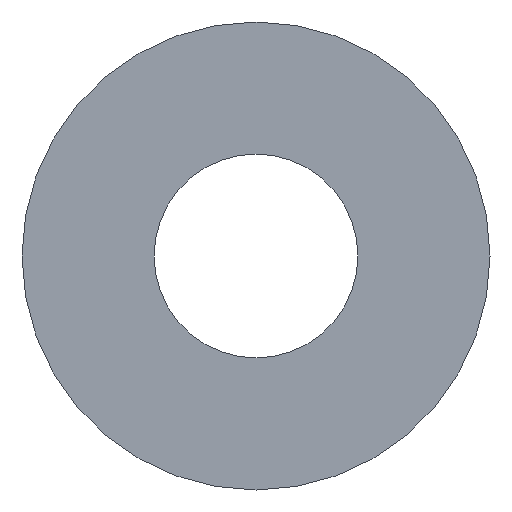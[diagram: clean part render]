
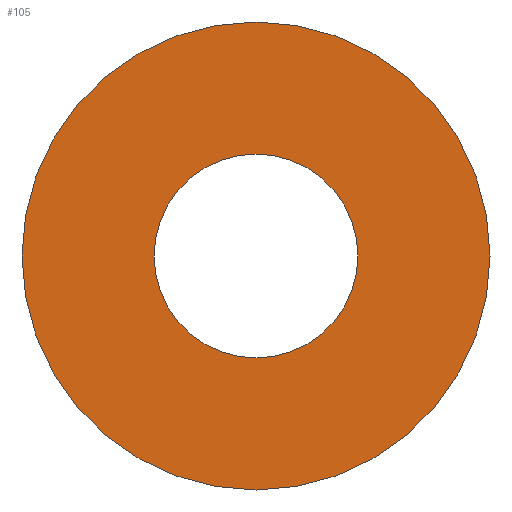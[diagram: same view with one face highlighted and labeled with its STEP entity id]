
A CAD part, left-side view. The second image highlights one B-rep face of the part: STEP entity #105.
In plain terms, the highlighted planar face has unit normal (-1, 0, 0).
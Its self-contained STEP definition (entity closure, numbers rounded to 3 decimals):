
#22 = VERTEX_POINT('',#23);
#23 = CARTESIAN_POINT('',(6.5,-7.,0.));
#32 = CYLINDRICAL_SURFACE('',#33,7.);
#33 = AXIS2_PLACEMENT_3D('',#34,#35,#36);
#34 = CARTESIAN_POINT('',(6.5,0.,0.));
#35 = DIRECTION('',(-1.,-0.,-0.));
#36 = DIRECTION('',(0.,-1.,0.));
#79 = EDGE_CURVE('',#22,#22,#80,.T.);
#80 = SURFACE_CURVE('',#81,(#86,#93),.PCURVE_S1.);
#81 = CIRCLE('',#82,7.);
#82 = AXIS2_PLACEMENT_3D('',#83,#84,#85);
#83 = CARTESIAN_POINT('',(6.5,0.,0.));
#84 = DIRECTION('',(1.,0.,0.));
#85 = DIRECTION('',(0.,-1.,0.));
#86 = PCURVE('',#32,#87);
#87 = DEFINITIONAL_REPRESENTATION('',(#88),#92);
#88 = LINE('',#89,#90);
#89 = CARTESIAN_POINT('',(-0.,0.));
#90 = VECTOR('',#91,1.);
#91 = DIRECTION('',(-1.,0.));
#92 = ( GEOMETRIC_REPRESENTATION_CONTEXT(2) 
PARAMETRIC_REPRESENTATION_CONTEXT() REPRESENTATION_CONTEXT('2D SPACE',''
  ) );
#93 = PCURVE('',#94,#99);
#94 = PLANE('',#95);
#95 = AXIS2_PLACEMENT_3D('',#96,#97,#98);
#96 = CARTESIAN_POINT('',(6.5,0.,0.));
#97 = DIRECTION('',(1.,0.,0.));
#98 = DIRECTION('',(-0.,0.,1.));
#99 = DEFINITIONAL_REPRESENTATION('',(#100),#104);
#100 = CIRCLE('',#101,7.);
#101 = AXIS2_PLACEMENT_2D('',#102,#103);
#102 = CARTESIAN_POINT('',(0.,0.));
#103 = DIRECTION('',(0.,1.));
#104 = ( GEOMETRIC_REPRESENTATION_CONTEXT(2) 
PARAMETRIC_REPRESENTATION_CONTEXT() REPRESENTATION_CONTEXT('2D SPACE',''
  ) );
#105 = ADVANCED_FACE('',(#106,#109),#94,.F.);
#106 = FACE_BOUND('',#107,.F.);
#107 = EDGE_LOOP('',(#108));
#108 = ORIENTED_EDGE('',*,*,#79,.T.);
#109 = FACE_BOUND('',#110,.F.);
#110 = EDGE_LOOP('',(#111));
#111 = ORIENTED_EDGE('',*,*,#112,.T.);
#112 = EDGE_CURVE('',#113,#113,#115,.T.);
#113 = VERTEX_POINT('',#114);
#114 = CARTESIAN_POINT('',(6.5,-3.05,0.));
#115 = SURFACE_CURVE('',#116,(#121,#132),.PCURVE_S1.);
#116 = CIRCLE('',#117,3.05);
#117 = AXIS2_PLACEMENT_3D('',#118,#119,#120);
#118 = CARTESIAN_POINT('',(6.5,0.,0.));
#119 = DIRECTION('',(-1.,-0.,0.));
#120 = DIRECTION('',(0.,-1.,0.));
#121 = PCURVE('',#94,#122);
#122 = DEFINITIONAL_REPRESENTATION('',(#123),#131);
#123 = ( BOUNDED_CURVE() B_SPLINE_CURVE(2,(#124,#125,#126,#127,#128,#129
,#130),.UNSPECIFIED.,.T.,.F.) B_SPLINE_CURVE_WITH_KNOTS((1,2,2,2,2,1),(
    -2.094,0.,2.094,4.189,6.283,
8.378),.UNSPECIFIED.) CURVE() GEOMETRIC_REPRESENTATION_ITEM() 
RATIONAL_B_SPLINE_CURVE((1.,0.5,1.,0.5,1.,0.5,1.)) REPRESENTATION_ITEM(
  '') );
#124 = CARTESIAN_POINT('',(0.,3.05));
#125 = CARTESIAN_POINT('',(5.283,3.05));
#126 = CARTESIAN_POINT('',(2.641,-1.525));
#127 = CARTESIAN_POINT('',(0.,-6.1));
#128 = CARTESIAN_POINT('',(-2.641,-1.525));
#129 = CARTESIAN_POINT('',(-5.283,3.05));
#130 = CARTESIAN_POINT('',(0.,3.05));
#131 = ( GEOMETRIC_REPRESENTATION_CONTEXT(2) 
PARAMETRIC_REPRESENTATION_CONTEXT() REPRESENTATION_CONTEXT('2D SPACE',''
  ) );
#132 = PCURVE('',#133,#138);
#133 = CYLINDRICAL_SURFACE('',#134,3.05);
#134 = AXIS2_PLACEMENT_3D('',#135,#136,#137);
#135 = CARTESIAN_POINT('',(6.,0.,0.));
#136 = DIRECTION('',(-1.,-0.,-0.));
#137 = DIRECTION('',(0.,-1.,0.));
#138 = DEFINITIONAL_REPRESENTATION('',(#139),#143);
#139 = LINE('',#140,#141);
#140 = CARTESIAN_POINT('',(-6.283,-0.5));
#141 = VECTOR('',#142,1.);
#142 = DIRECTION('',(1.,-0.));
#143 = ( GEOMETRIC_REPRESENTATION_CONTEXT(2) 
PARAMETRIC_REPRESENTATION_CONTEXT() REPRESENTATION_CONTEXT('2D SPACE',''
  ) );
